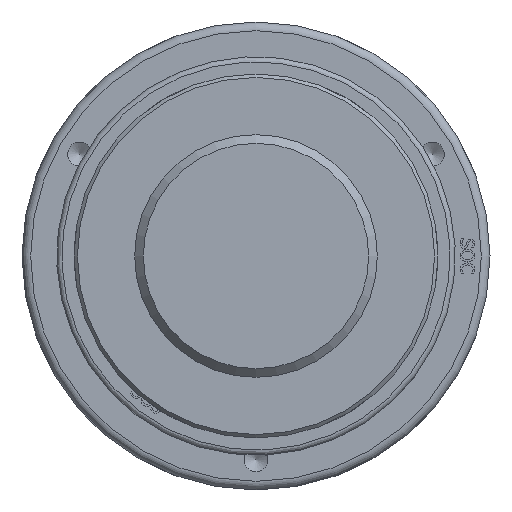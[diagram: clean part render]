
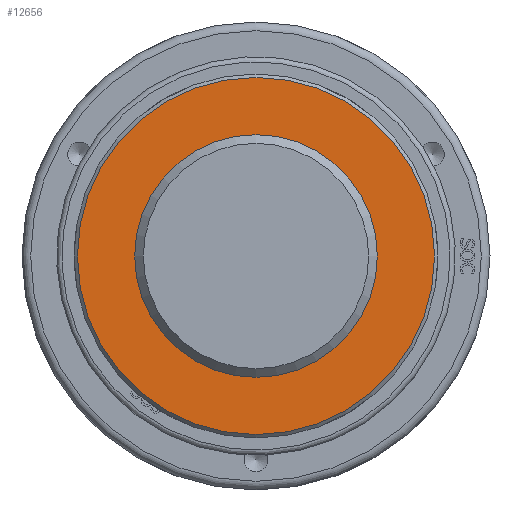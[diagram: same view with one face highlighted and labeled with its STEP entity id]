
A CAD part, front view. The second image highlights one B-rep face of the part: STEP entity #12656.
In plain terms, the highlighted planar face has unit normal (0, -1, 0) as drawn and (0, 1, 0) by its records, which use the part's own axes.
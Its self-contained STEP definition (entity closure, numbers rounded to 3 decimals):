
#90=CIRCLE('',#13293,103.);
#92=CIRCLE('',#13297,66.753);
#171=FACE_BOUND('',#2561,.T.);
#1792=FACE_OUTER_BOUND('',#2560,.T.);
#2560=EDGE_LOOP('',(#10064));
#2561=EDGE_LOOP('',(#10065));
#5676=VERTEX_POINT('',#19480);
#5690=VERTEX_POINT('',#19720);
#7257=EDGE_CURVE('',#5676,#5676,#90,.T.);
#7271=EDGE_CURVE('',#5690,#5690,#92,.T.);
#10064=ORIENTED_EDGE('',*,*,#7257,.F.);
#10065=ORIENTED_EDGE('',*,*,#7271,.T.);
#12189=PLANE('',#13296);
#12656=ADVANCED_FACE('',(#1792,#171),#12189,.T.);
#13293=AXIS2_PLACEMENT_3D('',#19481,#14370,#14371);
#13296=AXIS2_PLACEMENT_3D('',#19719,#14376,#14377);
#13297=AXIS2_PLACEMENT_3D('',#19721,#14378,#14379);
#14370=DIRECTION('center_axis',(0.,-1.,0.));
#14371=DIRECTION('ref_axis',(1.,0.,0.));
#14376=DIRECTION('center_axis',(0.,1.,0.));
#14377=DIRECTION('ref_axis',(0.,0.,1.));
#14378=DIRECTION('center_axis',(0.,-1.,0.));
#14379=DIRECTION('ref_axis',(1.,0.,0.));
#19480=CARTESIAN_POINT('',(-103.,70.,0.));
#19481=CARTESIAN_POINT('Origin',(0.,70.,0.));
#19719=CARTESIAN_POINT('Origin',(0.,70.,0.));
#19720=CARTESIAN_POINT('',(-66.753,70.,0.));
#19721=CARTESIAN_POINT('Origin',(0.,70.,0.));
